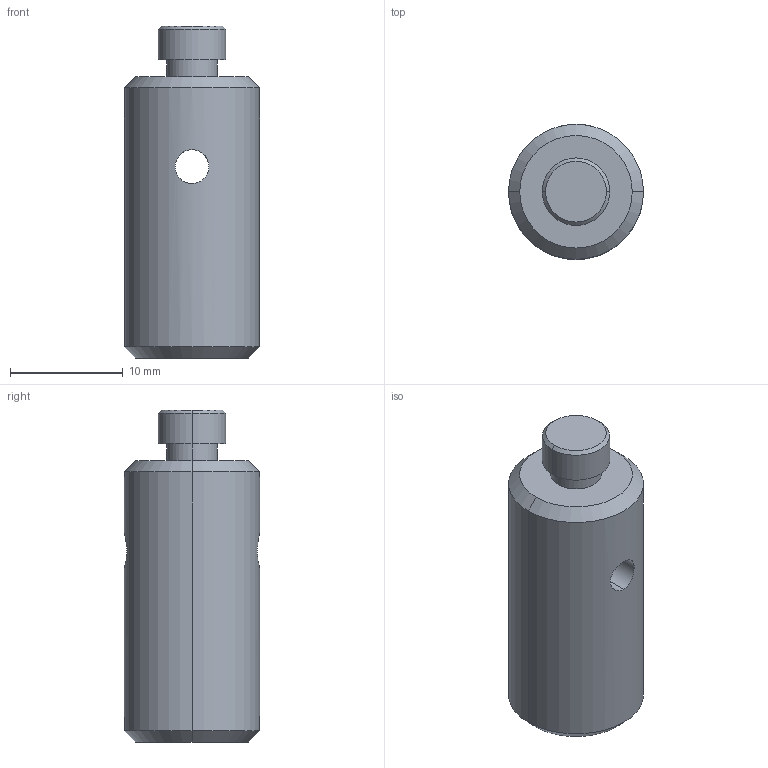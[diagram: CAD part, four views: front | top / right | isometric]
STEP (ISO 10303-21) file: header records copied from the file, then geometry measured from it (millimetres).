
FILE_DESCRIPTION (( 'STEP AP203' ), '1' );
FILE_NAME ('PHSP12-1.step', '2019-05-09T09:07:35', ( '' ), ( '' ), 'SwSTEP 2.0', 'SolidWorks 2016', '' );
FILE_SCHEMA (( 'CONFIG_CONTROL_DESIGN' ));
Length unit declared in the file: millimetre
Products named in the file (1): PHSP12-1
Bounding box: 12 x 12 x 29.5 mm (x, y, z)
Volume: 2530.8 mm3; surface area: 1541.2 mm2
Topology: 1 solids, 1 shells, 22 faces, 49 edges, 30 vertices
Faces by surface type: cylinder 10, cone 8, plane 4
Entity records: 853 total; most frequent: CARTESIAN_POINT 275, DIRECTION 109, ORIENTED_EDGE 98, EDGE_CURVE 49, AXIS2_PLACEMENT_3D 45, VERTEX_POINT 30, EDGE_LOOP 27, FACE_OUTER_BOUND 22
